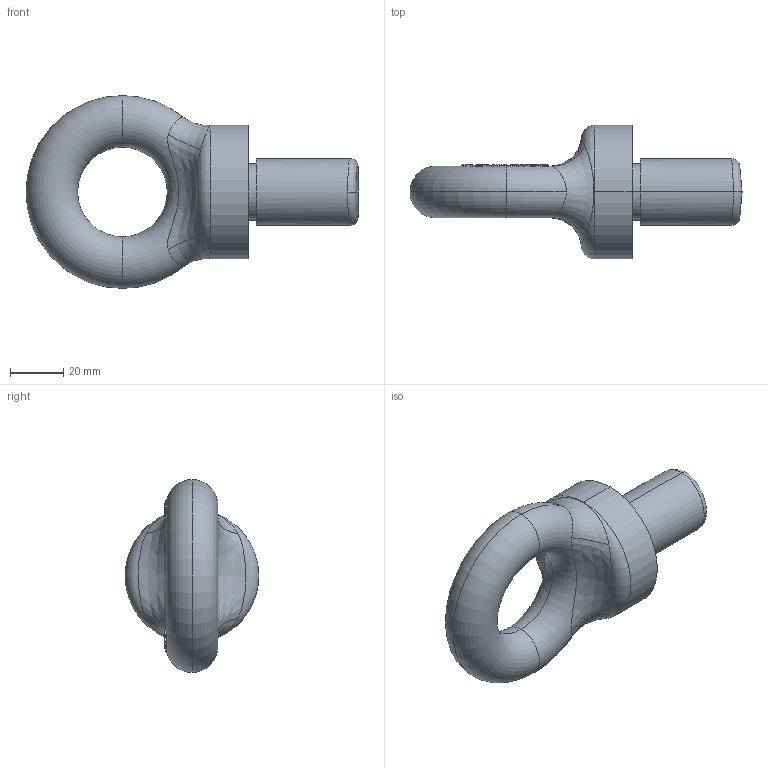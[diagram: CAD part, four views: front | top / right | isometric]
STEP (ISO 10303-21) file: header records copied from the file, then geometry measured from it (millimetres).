
FILE_DESCRIPTION (( 'STEP AP203' ), '1' );
FILE_NAME ('EBB875.STEP', '2010-01-11T00:38:30', ( ' ' ), ( ' ' ), 'SwSTEP 2.0', 'SolidWorks 2003240', '' );
FILE_SCHEMA (( 'CONFIG_CONTROL_DESIGN' ));
Length unit declared in the file: millimetre
Products named in the file (1): EBB875
Bounding box: 124.15 x 50 x 72.1 mm (x, y, z)
Volume: 103697.5 mm3; surface area: 18046 mm2
Topology: 1 solids, 1 shells, 224 faces, 599 edges, 396 vertices
Faces by surface type: plane 134, bspline 56, torus 28, cylinder 6
Entity records: 25626 total; most frequent: CARTESIAN_POINT 20856, ORIENTED_EDGE 1198, EDGE_CURVE 599, DIRECTION 583, VERTEX_POINT 396, B_SPLINE_CURVE_WITH_KNOTS 376, EDGE_LOOP 245, FACE_OUTER_BOUND 224
